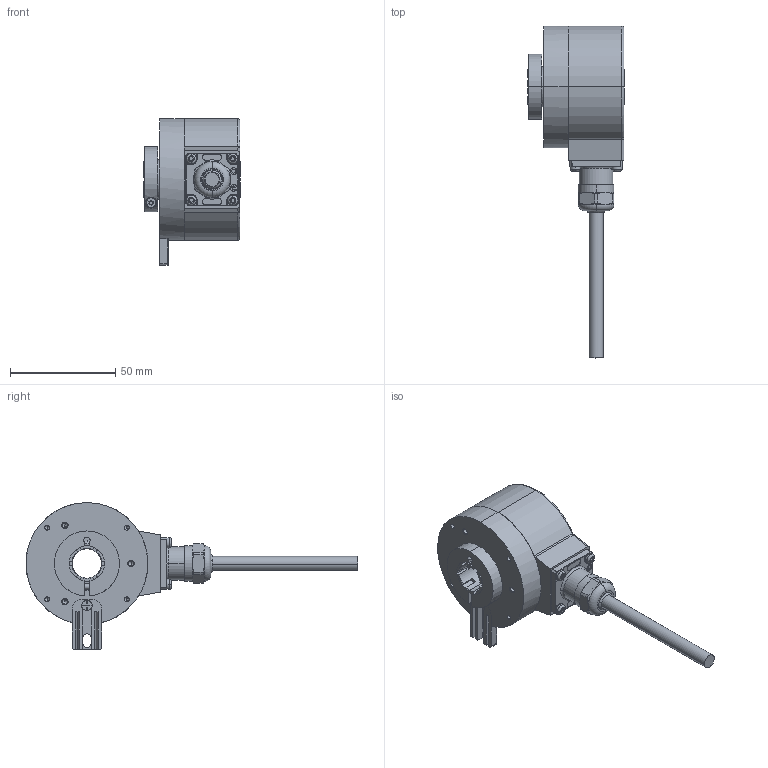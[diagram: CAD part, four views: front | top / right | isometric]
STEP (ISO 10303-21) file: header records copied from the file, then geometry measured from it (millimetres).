
FILE_DESCRIPTION (( 'STEP AP203' ), '1' );
FILE_NAME ('K58I.OXX.XXXXX.XH11514.6XR31.XXXX.step', '2025-12-08T12:45:36', ( '' ), ( '' ), 'SwSTEP 2.0', 'SolidWorks 2021', '' );
FILE_SCHEMA (( 'CONFIG_CONTROL_DESIGN' ));
Length unit declared in the file: millimetre
Products named in the file (1): K58I.OXX.XXXXX.XH11514.6XR31.XXXX
Bounding box: 46 x 158 x 69.9 mm (x, y, z)
Volume: 112558.8 mm3; surface area: 38014.3 mm2
Topology: 10 solids, 10 shells, 676 faces, 1714 edges, 1076 vertices
Faces by surface type: cylinder 292, plane 215, cone 73, torus 40, bspline 40, sphere 16
Entity records: 22320 total; most frequent: CARTESIAN_POINT 5919, DIRECTION 3525, ORIENTED_EDGE 3400, EDGE_CURVE 1700, AXIS2_PLACEMENT_3D 1368, VERTEX_POINT 1076, VECTOR 789, LINE 789
